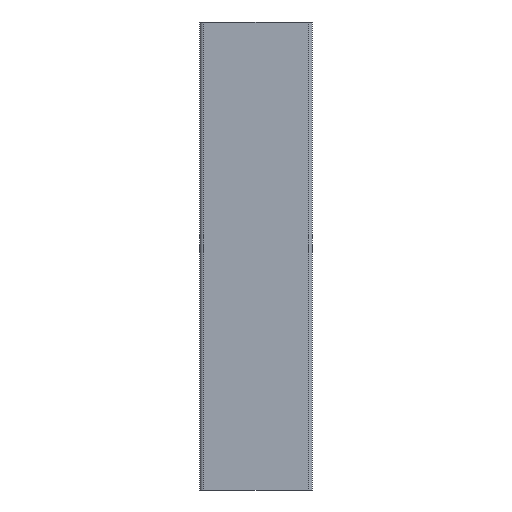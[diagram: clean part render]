
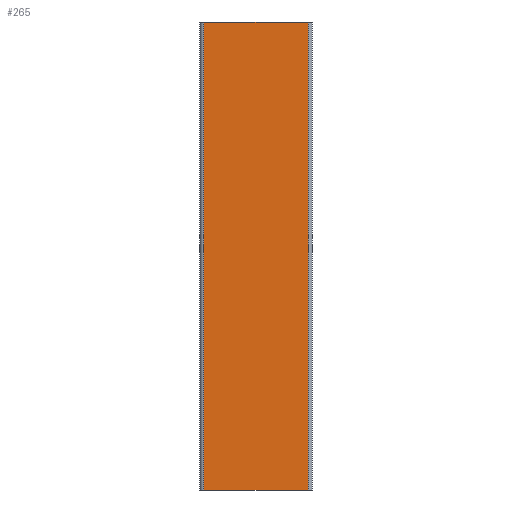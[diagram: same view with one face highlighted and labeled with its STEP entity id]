
A CAD part, left-side view. The second image highlights one B-rep face of the part: STEP entity #265.
In plain terms, the highlighted planar face has unit normal (-1, 0, 0).
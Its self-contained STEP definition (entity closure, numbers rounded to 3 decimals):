
#37=FACE_OUTER_BOUND('',#52,.T.);
#52=EDGE_LOOP('',(#215,#216,#217,#218));
#78=LINE('',#440,#106);
#79=LINE('',#445,#107);
#80=LINE('',#448,#108);
#81=LINE('',#449,#109);
#106=VECTOR('',#359,10.);
#107=VECTOR('',#366,10.);
#108=VECTOR('',#369,10.);
#109=VECTOR('',#370,10.);
#132=VERTEX_POINT('',#437);
#133=VERTEX_POINT('',#439);
#134=VERTEX_POINT('',#443);
#135=VERTEX_POINT('',#447);
#162=EDGE_CURVE('',#133,#132,#78,.T.);
#165=EDGE_CURVE('',#133,#134,#79,.T.);
#166=EDGE_CURVE('',#135,#132,#80,.T.);
#167=EDGE_CURVE('',#134,#135,#81,.T.);
#215=ORIENTED_EDGE('',*,*,#165,.F.);
#216=ORIENTED_EDGE('',*,*,#162,.T.);
#217=ORIENTED_EDGE('',*,*,#166,.F.);
#218=ORIENTED_EDGE('',*,*,#167,.F.);
#253=PLANE('',#308);
#265=ADVANCED_FACE('',(#37),#253,.T.);
#308=AXIS2_PLACEMENT_3D('',#446,#367,#368);
#359=DIRECTION('',(0.,-1.,0.));
#366=DIRECTION('',(0.,0.,1.));
#367=DIRECTION('center_axis',(-1.,0.,0.));
#368=DIRECTION('ref_axis',(0.,-1.,0.));
#369=DIRECTION('',(0.,0.,-1.));
#370=DIRECTION('',(0.,-1.,0.));
#437=CARTESIAN_POINT('',(-30.,-28.,0.));
#439=CARTESIAN_POINT('',(-30.,28.,0.));
#440=CARTESIAN_POINT('',(-30.,30.,0.));
#443=CARTESIAN_POINT('',(-30.,28.,250.));
#445=CARTESIAN_POINT('',(-30.,28.,0.));
#446=CARTESIAN_POINT('Origin',(-30.,30.,0.));
#447=CARTESIAN_POINT('',(-30.,-28.,250.));
#448=CARTESIAN_POINT('',(-30.,-28.,0.));
#449=CARTESIAN_POINT('',(-30.,30.,250.));
